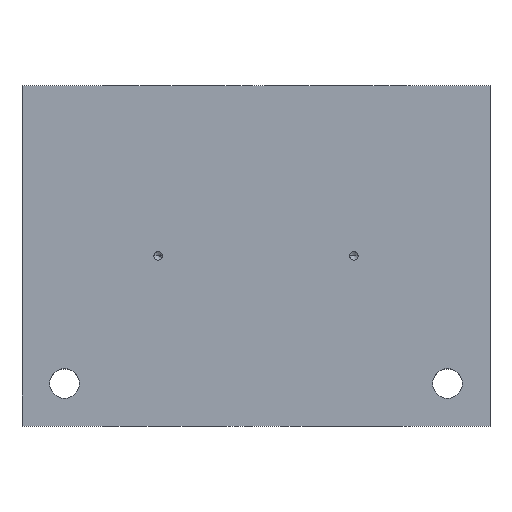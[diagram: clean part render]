
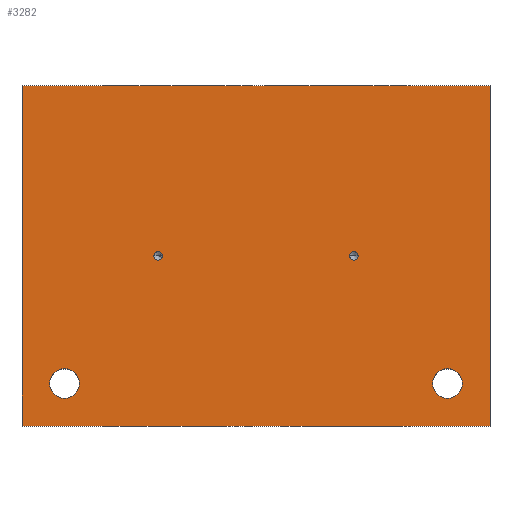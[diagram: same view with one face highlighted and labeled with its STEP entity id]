
A CAD part, top view. The second image highlights one B-rep face of the part: STEP entity #3282.
In plain terms, the highlighted planar face has unit normal (0, 0, 1).
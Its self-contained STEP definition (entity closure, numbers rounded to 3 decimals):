
#41=DIRECTION('',(0.,-1.,0.));
#42=VECTOR('',#41,80.);
#43=CARTESIAN_POINT('',(0.,80.,0.));
#44=LINE('',#43,#42);
#64=DIRECTION('',(1.,0.,0.));
#65=VECTOR('',#64,110.);
#66=CARTESIAN_POINT('',(0.,0.,0.));
#67=LINE('',#66,#65);
#103=DIRECTION('',(1.,0.,0.));
#104=VECTOR('',#103,110.);
#105=CARTESIAN_POINT('',(0.,80.,0.));
#106=LINE('',#105,#104);
#110=CARTESIAN_POINT('',(32.,40.,0.));
#111=DIRECTION('',(0.,0.,1.));
#112=DIRECTION('',(-1.,0.,0.));
#113=AXIS2_PLACEMENT_3D('',#110,#111,#112);
#118=CARTESIAN_POINT('',(32.,40.,0.));
#119=DIRECTION('',(0.,0.,1.));
#120=DIRECTION('',(1.,0.,0.));
#121=AXIS2_PLACEMENT_3D('',#118,#119,#120);
#126=CARTESIAN_POINT('',(78.,40.,0.));
#127=DIRECTION('',(0.,0.,1.));
#128=DIRECTION('',(-1.,0.,0.));
#129=AXIS2_PLACEMENT_3D('',#126,#127,#128);
#134=CARTESIAN_POINT('',(78.,40.,0.));
#135=DIRECTION('',(0.,0.,1.));
#136=DIRECTION('',(1.,0.,0.));
#137=AXIS2_PLACEMENT_3D('',#134,#135,#136);
#142=CARTESIAN_POINT('',(10.,10.,0.));
#143=DIRECTION('',(0.,0.,-1.));
#144=DIRECTION('',(-1.,0.,0.));
#145=AXIS2_PLACEMENT_3D('',#142,#143,#144);
#150=CARTESIAN_POINT('',(10.,10.,0.));
#151=DIRECTION('',(0.,0.,-1.));
#152=DIRECTION('',(1.,0.,0.));
#153=AXIS2_PLACEMENT_3D('',#150,#151,#152);
#158=CARTESIAN_POINT('',(100.,10.,0.));
#159=DIRECTION('',(0.,0.,-1.));
#160=DIRECTION('',(-1.,0.,0.));
#161=AXIS2_PLACEMENT_3D('',#158,#159,#160);
#166=CARTESIAN_POINT('',(100.,10.,0.));
#167=DIRECTION('',(0.,0.,-1.));
#168=DIRECTION('',(1.,0.,0.));
#169=AXIS2_PLACEMENT_3D('',#166,#167,#168);
#259=DIRECTION('',(0.,-1.,0.));
#260=VECTOR('',#259,80.);
#261=CARTESIAN_POINT('',(110.,80.,0.));
#262=LINE('',#261,#260);
#2886=CARTESIAN_POINT('',(0.,0.,0.));
#2888=VERTEX_POINT('',#2886);
#2892=CARTESIAN_POINT('',(0.,80.,0.));
#2893=VERTEX_POINT('',#2892);
#2894=CARTESIAN_POINT('',(110.,0.,0.));
#2896=VERTEX_POINT('',#2894);
#2900=CARTESIAN_POINT('',(110.,80.,0.));
#2901=VERTEX_POINT('',#2900);
#2992=CARTESIAN_POINT('',(31.,40.,0.));
#2993=CARTESIAN_POINT('',(33.,40.,0.));
#2994=VERTEX_POINT('',#2992);
#2995=VERTEX_POINT('',#2993);
#3002=CARTESIAN_POINT('',(77.,40.,0.));
#3003=CARTESIAN_POINT('',(79.,40.,0.));
#3004=VERTEX_POINT('',#3002);
#3005=VERTEX_POINT('',#3003);
#3010=CARTESIAN_POINT('',(6.5,10.,0.));
#3011=CARTESIAN_POINT('',(13.5,10.,0.));
#3012=VERTEX_POINT('',#3010);
#3013=VERTEX_POINT('',#3011);
#3018=CARTESIAN_POINT('',(96.5,10.,0.));
#3019=CARTESIAN_POINT('',(103.5,10.,0.));
#3020=VERTEX_POINT('',#3018);
#3021=VERTEX_POINT('',#3019);
#3245=CARTESIAN_POINT('',(0.,80.,0.));
#3246=DIRECTION('',(0.,0.,1.));
#3247=DIRECTION('',(0.,-1.,0.));
#3248=AXIS2_PLACEMENT_3D('',#3245,#3246,#3247);
#3249=PLANE('',#3248);
#3250=ORIENTED_EDGE('',*,*,#3183,.F.);
#3252=ORIENTED_EDGE('',*,*,#3251,.T.);
#3254=ORIENTED_EDGE('',*,*,#3253,.T.);
#3255=ORIENTED_EDGE('',*,*,#3212,.F.);
#3256=EDGE_LOOP('',(#3250,#3252,#3254,#3255));
#3257=FACE_OUTER_BOUND('',#3256,.F.);
#3259=ORIENTED_EDGE('',*,*,#3258,.T.);
#3261=ORIENTED_EDGE('',*,*,#3260,.T.);
#3262=EDGE_LOOP('',(#3259,#3261));
#3263=FACE_BOUND('',#3262,.F.);
#3265=ORIENTED_EDGE('',*,*,#3264,.T.);
#3267=ORIENTED_EDGE('',*,*,#3266,.T.);
#3268=EDGE_LOOP('',(#3265,#3267));
#3269=FACE_BOUND('',#3268,.F.);
#3271=ORIENTED_EDGE('',*,*,#3270,.F.);
#3273=ORIENTED_EDGE('',*,*,#3272,.F.);
#3274=EDGE_LOOP('',(#3271,#3273));
#3275=FACE_BOUND('',#3274,.F.);
#3277=ORIENTED_EDGE('',*,*,#3276,.F.);
#3279=ORIENTED_EDGE('',*,*,#3278,.F.);
#3280=EDGE_LOOP('',(#3277,#3279));
#3281=FACE_BOUND('',#3280,.F.);
#114=CIRCLE('',#113,1.);
#122=CIRCLE('',#121,1.);
#130=CIRCLE('',#129,1.);
#138=CIRCLE('',#137,1.);
#146=CIRCLE('',#145,3.5);
#154=CIRCLE('',#153,3.5);
#162=CIRCLE('',#161,3.5);
#170=CIRCLE('',#169,3.5);
#3183=EDGE_CURVE('',#2893,#2888,#44,.T.);
#3212=EDGE_CURVE('',#2888,#2896,#67,.T.);
#3251=EDGE_CURVE('',#2893,#2901,#106,.T.);
#3253=EDGE_CURVE('',#2901,#2896,#262,.T.);
#3258=EDGE_CURVE('',#2994,#2995,#114,.T.);
#3260=EDGE_CURVE('',#2995,#2994,#122,.T.);
#3264=EDGE_CURVE('',#3004,#3005,#130,.T.);
#3266=EDGE_CURVE('',#3005,#3004,#138,.T.);
#3270=EDGE_CURVE('',#3012,#3013,#146,.T.);
#3272=EDGE_CURVE('',#3013,#3012,#154,.T.);
#3276=EDGE_CURVE('',#3020,#3021,#162,.T.);
#3278=EDGE_CURVE('',#3021,#3020,#170,.T.);
#3282=ADVANCED_FACE('',(#3257,#3263,#3269,#3275,#3281),#3249,.T.);
